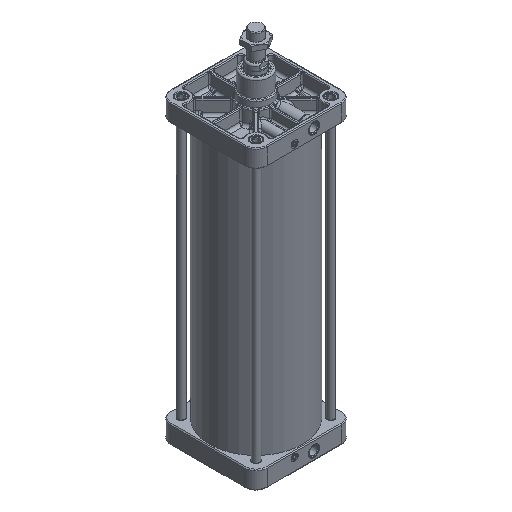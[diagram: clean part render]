
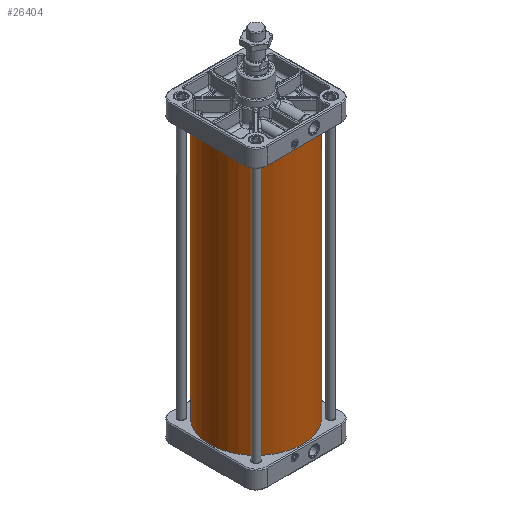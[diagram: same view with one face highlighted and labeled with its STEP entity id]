
A CAD part, isometric view. The second image highlights one B-rep face of the part: STEP entity #26404.
In plain terms, the highlighted cylindrical face has radius 168 mm (diameter 336 mm), a full revolution.
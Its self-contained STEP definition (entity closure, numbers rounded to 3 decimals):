
#2804=CIRCLE('',#29645,168.);
#2805=CIRCLE('',#29647,168.);
#3478=FACE_BOUND('',#7098,.T.);
#5147=FACE_OUTER_BOUND('',#7097,.T.);
#7097=EDGE_LOOP('',(#22547));
#7098=EDGE_LOOP('',(#22548));
#11979=VERTEX_POINT('',#64759);
#11980=VERTEX_POINT('',#64762);
#15511=EDGE_CURVE('',#11979,#11979,#2804,.T.);
#15512=EDGE_CURVE('',#11980,#11980,#2805,.T.);
#22547=ORIENTED_EDGE('',*,*,#15511,.T.);
#22548=ORIENTED_EDGE('',*,*,#15512,.T.);
#23070=CYLINDRICAL_SURFACE('',#29646,168.);
#26404=ADVANCED_FACE('',(#5147,#3478),#23070,.T.);
#29645=AXIS2_PLACEMENT_3D('',#64760,#36878,#36879);
#29646=AXIS2_PLACEMENT_3D('',#64761,#36880,#36881);
#29647=AXIS2_PLACEMENT_3D('',#64763,#36882,#36883);
#36878=DIRECTION('center_axis',(0.,0.,1.));
#36879=DIRECTION('ref_axis',(-1.,0.,0.));
#36880=DIRECTION('center_axis',(0.,0.,1.));
#36881=DIRECTION('ref_axis',(-1.,0.,0.));
#36882=DIRECTION('center_axis',(0.,0.,-1.));
#36883=DIRECTION('ref_axis',(-1.,0.,0.));
#64759=CARTESIAN_POINT('',(168.,0.,-470.));
#64760=CARTESIAN_POINT('Origin',(0.,0.,-470.));
#64761=CARTESIAN_POINT('Origin',(0.,0.,0.));
#64762=CARTESIAN_POINT('',(168.,0.,470.));
#64763=CARTESIAN_POINT('Origin',(0.,0.,470.));
